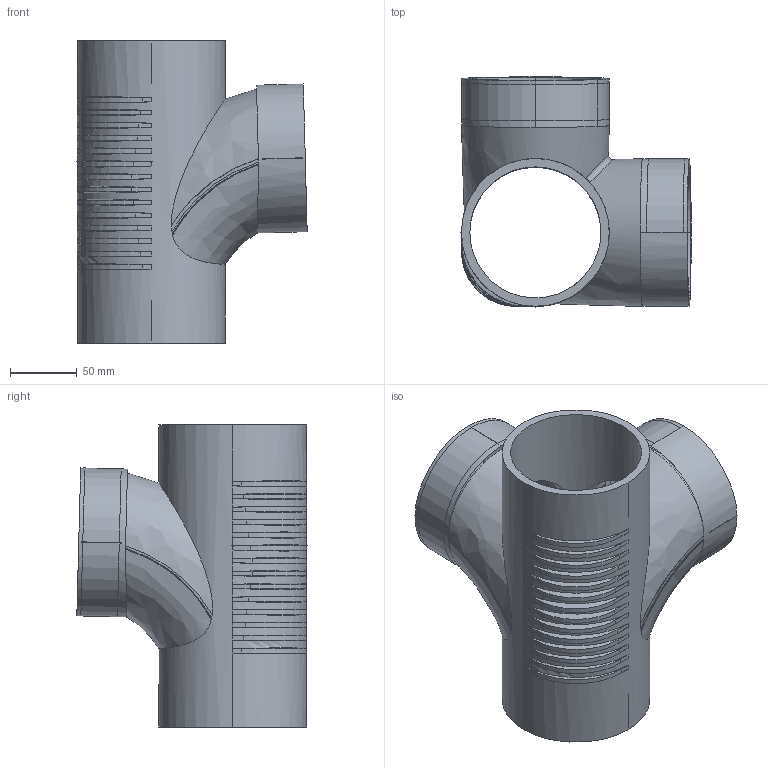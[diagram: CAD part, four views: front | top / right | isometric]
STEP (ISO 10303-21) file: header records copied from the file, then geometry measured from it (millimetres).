
FILE_DESCRIPTION(/* description */ (''),/* implementation_level */ '2;1');
FILE_NAME(/* name */ 'H:\Geberit-Teile\Export\Bogeneckabzw\stp\310083.stp',/* time_stamp */ '2017-11-13T11:06:18+01:00',/* author */ ('seihe2'),/* organization */ (''),/* preprocessor_version */ 'ST-DEVELOPER v15.2',/* originating_system */ 'Autodesk Inventor 2014',/* authorisation */ '');
FILE_SCHEMA (('AUTOMOTIVE_DESIGN { 1 0 10303 214 3 1 1 }'));
Length unit declared in the file: millimetre
Products named in the file (1): 310083
Bounding box: 172.11 x 172.11 x 226 mm (x, y, z)
Volume: 674129.1 mm3; surface area: 224984.7 mm2
Topology: 1 solids, 1 shells, 235 faces, 692 edges, 457 vertices
Faces by surface type: plane 82, bspline 63, cylinder 59, cone 31
Entity records: 11008 total; most frequent: CARTESIAN_POINT 5112, ORIENTED_EDGE 1372, DIRECTION 950, EDGE_CURVE 686, VERTEX_POINT 456, AXIS2_PLACEMENT_3D 341, LINE 268, VECTOR 268
